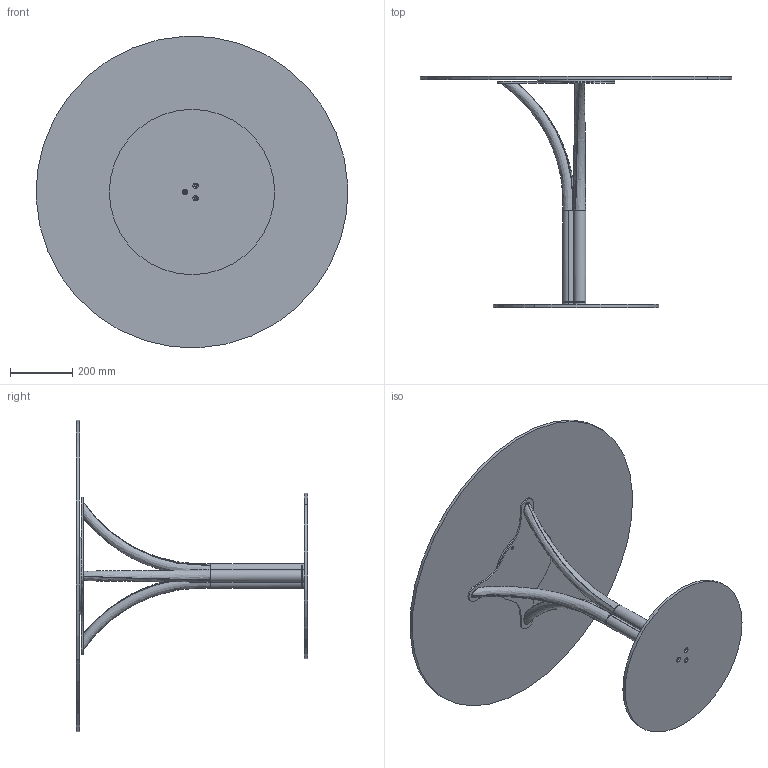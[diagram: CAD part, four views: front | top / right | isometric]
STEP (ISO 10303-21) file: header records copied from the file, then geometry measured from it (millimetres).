
FILE_DESCRIPTION (( 'STEP AP203' ), '1' );
FILE_NAME ('DB30G.STEP', '2024-08-08T08:15:42', ( '' ), ( '' ), 'SwSTEP 2.0', 'SolidWorks 2022', '' );
FILE_SCHEMA (( 'CONFIG_CONTROL_DESIGN' ));
Length unit declared in the file: millimetre
Products named in the file (8): CBS000000BAS-00-BISTRO PIASTRA INFERIORE_D.530; DOD000000_01-01-poggiapiano; DB30G; C1XCRMXX-00-piani Rotondi Cristallo_C03 D.100cm; CXXCRXX-00-Piani Rotondi in Cristallo CON PIASTRA_C03P PIANO CRISTALLO D.100cm; P0000003-00-STAFFA DI FISSAGGIO DIAMETRO 250_P0000003-250mm normale; DOD000000_02-00-Gamba curvata per DODO''_Default<A macchina>; DOD000000-01-DODO BASE 
Assembly tree (9 placements, depth 3):
  DB30G
    CBS000000BAS-00-BISTRO PIASTRA INFERIORE_D.530
    DOD000000-01-DODO BASE 
      DOD000000_02-00-Gamba curvata per DODO''_Default<A macchina>  x3
      DOD000000_01-01-poggiapiano
    CXXCRXX-00-Piani Rotondi in Cristallo CON PIASTRA_C03P PIANO CRISTALLO D.100cm
      C1XCRMXX-00-piani Rotondi Cristallo_C03 D.100cm
      P0000003-00-STAFFA DI FISSAGGIO DIAMETRO 250_P0000003-250mm normale
Bounding box: 999.01 x 741 x 999.01 mm (x, y, z)
Volume: 11242962.7 mm3; surface area: 2840435 mm2
Topology: 10 solids, 10 shells, 107 faces, 255 edges, 168 vertices
Faces by surface type: cylinder 63, plane 26, bspline 12, cone 6
Entity records: 6469 total; most frequent: CARTESIAN_POINT 3692, DIRECTION 433, ORIENTED_EDGE 366, EDGE_CURVE 183, AXIS2_PLACEMENT_3D 181, VERTEX_POINT 120, EDGE_LOOP 99, CIRCLE 96
